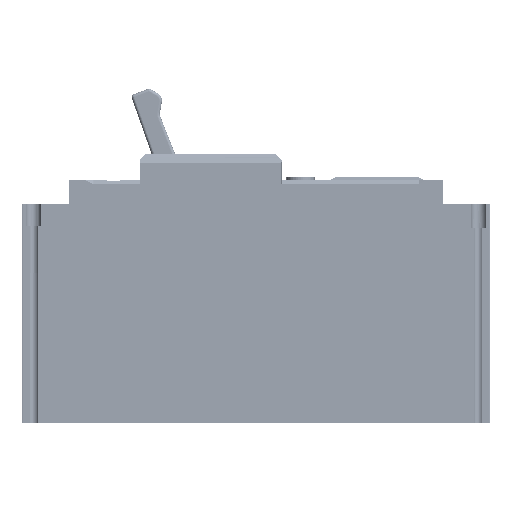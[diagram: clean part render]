
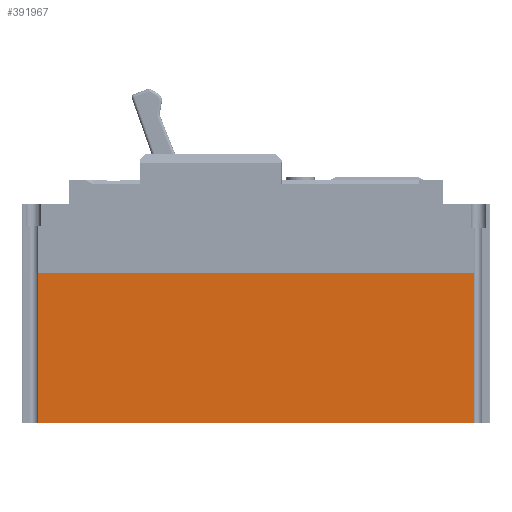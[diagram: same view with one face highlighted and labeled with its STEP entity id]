
A CAD part, left-side view. The second image highlights one B-rep face of the part: STEP entity #391967.
In plain terms, the highlighted planar face has unit normal (-1, 0, 0).
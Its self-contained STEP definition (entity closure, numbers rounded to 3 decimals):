
#28782 = VERTEX_POINT ( 'NONE', #314650 ) ;
#88786 = DIRECTION ( 'NONE',  ( 0., -1., 0. ) ) ;
#107438 = VERTEX_POINT ( 'NONE', #709981 ) ;
#132892 = DIRECTION ( 'NONE',  ( 0., 0., 1. ) ) ;
#153632 = EDGE_CURVE ( 'NONE', #107438, #345595, #264409, .T. ) ;
#206328 = ORIENTED_EDGE ( 'NONE', *, *, #903209, .F. ) ;
#238693 = LINE ( 'NONE', #730822, #583444 ) ;
#264409 = LINE ( 'NONE', #845469, #709711 ) ;
#279858 = LINE ( 'NONE', #640806, #853084 ) ;
#314650 = CARTESIAN_POINT ( 'NONE',  ( 0., -5.75, 0. ) ) ;
#341366 = ORIENTED_EDGE ( 'NONE', *, *, #489572, .F. ) ;
#345595 = VERTEX_POINT ( 'NONE', #591627 ) ;
#352769 = CARTESIAN_POINT ( 'NONE',  ( 0., -5.75, 0. ) ) ;
#391967 = ADVANCED_FACE ( 'NONE', ( #633408 ), #703379, .T. ) ;
#462939 = ORIENTED_EDGE ( 'NONE', *, *, #792430, .F. ) ;
#489572 = EDGE_CURVE ( 'NONE', #736638, #345595, #238693, .T. ) ;
#540160 = VECTOR ( 'NONE', #638787, 1000. ) ;
#583444 = VECTOR ( 'NONE', #88786, 1000. ) ;
#591627 = CARTESIAN_POINT ( 'NONE',  ( 0., -159.25, 53. ) ) ;
#606772 = CARTESIAN_POINT ( 'NONE',  ( 0., -5.75, 53. ) ) ;
#624178 = CARTESIAN_POINT ( 'NONE',  ( 0., -165., 53. ) ) ;
#633408 = FACE_OUTER_BOUND ( 'NONE', #855906, .T. ) ;
#638787 = DIRECTION ( 'NONE',  ( 0., 0., 1. ) ) ;
#640806 = CARTESIAN_POINT ( 'NONE',  ( 0., -165., 0. ) ) ;
#685114 = DIRECTION ( 'NONE',  ( 0., 0., 1. ) ) ;
#686676 = ORIENTED_EDGE ( 'NONE', *, *, #153632, .T. ) ;
#703379 = PLANE ( 'NONE',  #875124 ) ;
#709711 = VECTOR ( 'NONE', #132892, 1000. ) ;
#709981 = CARTESIAN_POINT ( 'NONE',  ( 0., -159.25, 0. ) ) ;
#730822 = CARTESIAN_POINT ( 'NONE',  ( 0., -165., 53. ) ) ;
#736638 = VERTEX_POINT ( 'NONE', #606772 ) ;
#764497 = DIRECTION ( 'NONE',  ( -1., 0., 0. ) ) ;
#788481 = LINE ( 'NONE', #352769, #540160 ) ;
#792430 = EDGE_CURVE ( 'NONE', #107438, #28782, #279858, .T. ) ;
#845469 = CARTESIAN_POINT ( 'NONE',  ( 0., -159.25, 0. ) ) ;
#853084 = VECTOR ( 'NONE', #926684, 1000. ) ;
#855906 = EDGE_LOOP ( 'NONE', ( #341366, #206328, #462939, #686676 ) ) ;
#875124 = AXIS2_PLACEMENT_3D ( 'NONE', #624178, #764497, #685114 ) ;
#903209 = EDGE_CURVE ( 'NONE', #28782, #736638, #788481, .T. ) ;
#926684 = DIRECTION ( 'NONE',  ( 0., 1., 0. ) ) ;
